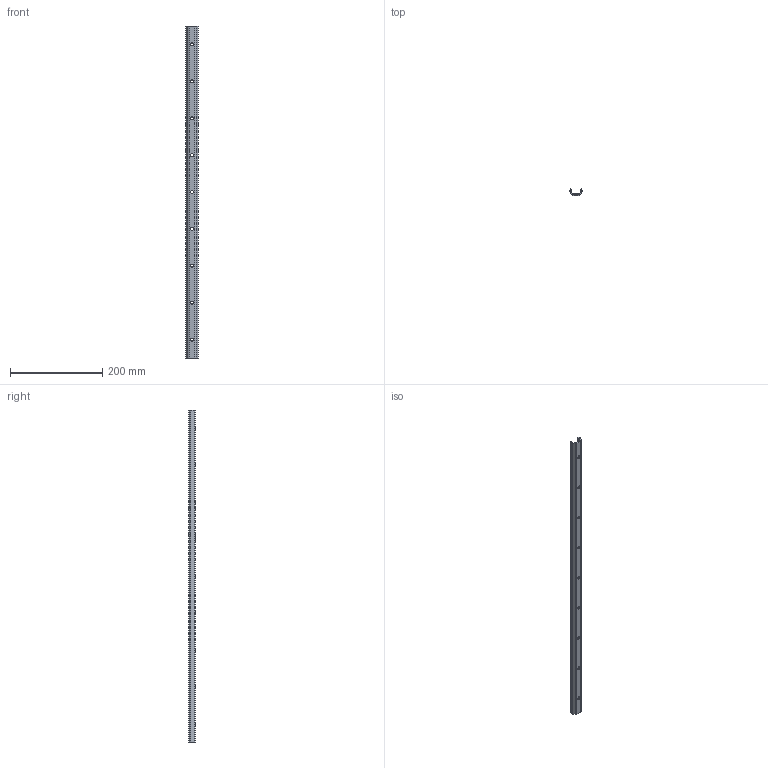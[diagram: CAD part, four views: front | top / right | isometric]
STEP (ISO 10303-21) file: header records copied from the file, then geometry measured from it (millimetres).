
FILE_DESCRIPTION(('STEP AP214'),'1');
FILE_NAME('rail_tex26-720.stp','2019-03-08T08:28:48',('TraceParts'),('TraceParts S.A.'),'Spatial InterOp 3D',' ',' ');
FILE_SCHEMA(('automotive_design'));
Length unit declared in the file: millimetre
Products named in the file (1): rail_tex26-720
Bounding box: 26.06 x 14 x 720 mm (x, y, z)
Volume: 74532.3 mm3; surface area: 63633.3 mm2
Topology: 1 solids, 1 shells, 192 faces, 501 edges, 334 vertices
Faces by surface type: plane 133, cylinder 30, bspline 29
Entity records: 11900 total; most frequent: CARTESIAN_POINT 5709, ORIENTED_EDGE 1002, DIRECTION 831, EDGE_CURVE 501, LINE 383, VECTOR 383, VERTEX_POINT 334, EDGE_LOOP 233
